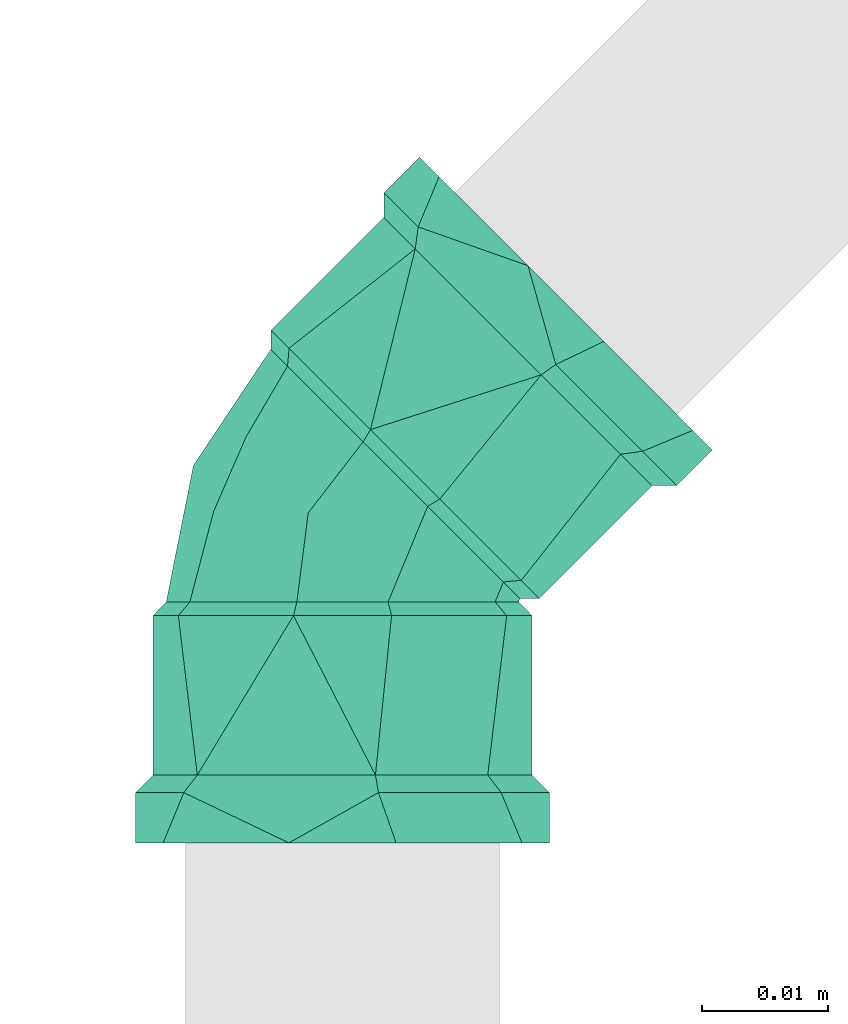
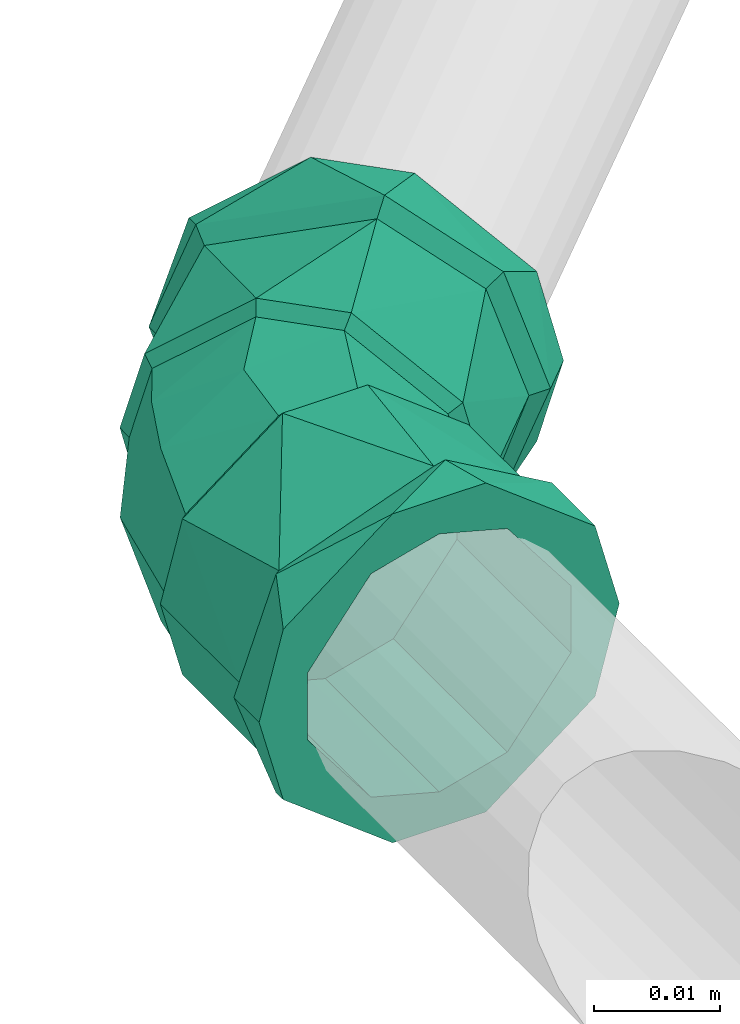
# One storey, part 376 of 589: 1 flow fitting.
"""IFC2X3 building model written with IfcOpenShell, lengths in millimetres."""

from ifc_helpers import new_model, entity, si_unit, converted_unit, derived_unit, direction, frame, origin, place, context, subcontext, project, spatial, faceted_brep, source, transform, mapped, material, type_object, type_shapes, element, save


model = new_model("IFC2X3")

# Units and contexts
model_context = context("Model", 3, precision=0.01, world=origin(), true_north=direction((6.123031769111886e-17, 1.0)))
body_context = subcontext(model_context, "Body", "Model", "MODEL_VIEW")
ifc_project = project(units=[si_unit("LENGTHUNIT", "METRE", prefix="MILLI"), si_unit("AREAUNIT", "SQUARE_METRE"), si_unit("VOLUMEUNIT", "CUBIC_METRE"), converted_unit("PLANEANGLEUNIT", "DEGREE", entity("IfcRatioMeasure", 0.017453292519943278), si_unit("PLANEANGLEUNIT", "RADIAN"), dimensions=[0, 0, 0, 0, 0, 0, 0]), si_unit("MASSUNIT", "GRAM", prefix="KILO"), derived_unit("MASSDENSITYUNIT", [(si_unit("MASSUNIT", "GRAM", prefix="KILO"), 1), (si_unit("LENGTHUNIT", "METRE"), -3)]), derived_unit("IONCONCENTRATIONUNIT", [(si_unit("MASSUNIT", "GRAM", prefix="KILO"), 1), (si_unit("LENGTHUNIT", "METRE"), -3)]), derived_unit("MOMENTOFINERTIAUNIT", [(si_unit("LENGTHUNIT", "METRE"), 4)]), si_unit("TIMEUNIT", "SECOND"), si_unit("FREQUENCYUNIT", "HERTZ"), si_unit("THERMODYNAMICTEMPERATUREUNIT", "DEGREE_CELSIUS"), derived_unit("THERMALTRANSMITTANCEUNIT", [(si_unit("MASSUNIT", "GRAM", prefix="KILO"), 1), (si_unit("THERMODYNAMICTEMPERATUREUNIT", "KELVIN"), -1), (si_unit("TIMEUNIT", "SECOND"), -3)]), derived_unit("THERMALCONDUCTANCEUNIT", [(si_unit("MASSUNIT", "GRAM", prefix="KILO"), 1), (si_unit("THERMODYNAMICTEMPERATUREUNIT", "KELVIN"), -1), (si_unit("TIMEUNIT", "SECOND"), -3), (si_unit("LENGTHUNIT", "METRE"), 1)]), derived_unit("VOLUMETRICFLOWRATEUNIT", [(si_unit("LENGTHUNIT", "METRE"), 3), (si_unit("TIMEUNIT", "SECOND"), -1)]), derived_unit("MASSFLOWRATEUNIT", [(si_unit("MASSUNIT", "GRAM", prefix="KILO"), 1), (si_unit("TIMEUNIT", "SECOND"), -1)]), derived_unit("ROTATIONALFREQUENCYUNIT", [(si_unit("TIMEUNIT", "SECOND"), -1)]), si_unit("ELECTRICCURRENTUNIT", "AMPERE"), si_unit("ELECTRICVOLTAGEUNIT", "VOLT"), si_unit("POWERUNIT", "WATT"), si_unit("FORCEUNIT", "NEWTON", prefix="KILO"), si_unit("ILLUMINANCEUNIT", "LUX"), si_unit("LUMINOUSFLUXUNIT", "LUMEN"), si_unit("LUMINOUSINTENSITYUNIT", "CANDELA"), derived_unit("USERDEFINED", [(si_unit("MASSUNIT", "GRAM", prefix="KILO"), -1), (si_unit("LENGTHUNIT", "METRE"), -2), (si_unit("TIMEUNIT", "SECOND"), 3), (si_unit("LUMINOUSFLUXUNIT", "LUMEN"), 1)]), derived_unit("USERDEFINED", [(si_unit("MASSUNIT", "GRAM", prefix="KILO"), 1), (si_unit("TIMEUNIT", "SECOND"), -3), (si_unit("LENGTHUNIT", "METRE"), 3), (si_unit("ELECTRICCURRENTUNIT", "AMPERE"), -2)]), derived_unit("SOUNDPOWERUNIT", [(si_unit("MASSUNIT", "GRAM", prefix="KILO"), 1), (si_unit("TIMEUNIT", "SECOND"), -3), (si_unit("LENGTHUNIT", "METRE"), 2)]), derived_unit("SOUNDPRESSUREUNIT", [(si_unit("MASSUNIT", "GRAM", prefix="KILO"), 1), (si_unit("LENGTHUNIT", "METRE"), -1), (si_unit("TIMEUNIT", "SECOND"), -2)]), derived_unit("LINEARVELOCITYUNIT", [(si_unit("LENGTHUNIT", "METRE"), 1), (si_unit("TIMEUNIT", "SECOND"), -1)]), si_unit("PRESSUREUNIT", "PASCAL"), derived_unit("USERDEFINED", [(si_unit("MASSUNIT", "GRAM", prefix="KILO"), 1), (si_unit("LENGTHUNIT", "METRE"), -2), (si_unit("TIMEUNIT", "SECOND"), -2)]), derived_unit("LINEARFORCEUNIT", [(si_unit("MASSUNIT", "GRAM", prefix="KILO"), 1), (si_unit("TIMEUNIT", "SECOND"), -2)]), derived_unit("PLANARFORCEUNIT", [(si_unit("MASSUNIT", "GRAM", prefix="KILO"), 1), (si_unit("LENGTHUNIT", "METRE"), -1), (si_unit("TIMEUNIT", "SECOND"), -2)]), derived_unit("SPECIFICHEATCAPACITYUNIT", [(si_unit("THERMODYNAMICTEMPERATUREUNIT", "KELVIN"), -1), (si_unit("LENGTHUNIT", "METRE"), 2), (si_unit("TIMEUNIT", "SECOND"), -2)]), derived_unit("HEATINGVALUEUNIT", [(si_unit("LENGTHUNIT", "METRE"), 2), (si_unit("TIMEUNIT", "SECOND"), -2)]), derived_unit("VAPORPERMEABILITYUNIT", [(si_unit("LENGTHUNIT", "METRE"), -1), (si_unit("TIMEUNIT", "SECOND"), 1)]), derived_unit("DYNAMICVISCOSITYUNIT", [(si_unit("MASSUNIT", "GRAM", prefix="KILO"), 1), (si_unit("TIMEUNIT", "SECOND"), -1), (si_unit("LENGTHUNIT", "METRE"), -1)]), derived_unit("THERMALEXPANSIONCOEFFICIENTUNIT", [(si_unit("THERMODYNAMICTEMPERATUREUNIT", "KELVIN"), -1)]), derived_unit("MODULUSOFELASTICITYUNIT", [(si_unit("MASSUNIT", "GRAM", prefix="KILO"), 1), (si_unit("LENGTHUNIT", "METRE"), -1), (si_unit("TIMEUNIT", "SECOND"), -2)]), derived_unit("ISOTHERMALMOISTURECAPACITYUNIT", [(si_unit("LENGTHUNIT", "METRE"), 3), (si_unit("MASSUNIT", "GRAM", prefix="KILO"), -1)]), derived_unit("MOISTUREDIFFUSIVITYUNIT", [(si_unit("TIMEUNIT", "SECOND"), -1), (si_unit("LENGTHUNIT", "METRE"), 2)])], contexts=[model_context])

# Site, building, storey
site_placement = place(None, origin())
site = spatial("IfcSite", under=ifc_project, at=site_placement, Name="Default", CompositionType="ELEMENT")
building_placement = place(site_placement, origin())
building = spatial("IfcBuilding", under=site, at=building_placement, CompositionType="ELEMENT")
storey_placement = place(building_placement, frame((0.0, 0.0, 100.0)))
storey = spatial("IfcBuildingStorey", under=building, at=storey_placement, Name="TÉRREO", CompositionType="ELEMENT", Elevation=100.0)

# Flow fitting
ifc_material = material(Name="PVC Marrom")
pipe_fitting_type = type_object("IfcPipeFittingType", Name="PVC Marrom Soldável_Joelho 45°_90°_Rodrigo MEP:Joelho", PredefinedType="NOTDEFINED", material=ifc_material)
shared_shape = source(origin(), body_context, "Body", "Brep", [
    faceted_brep([(7.758971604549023, 2.2319879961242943, 14.585479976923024), (14.24230357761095, -4.2513439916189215, 7.549999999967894), (15.67279219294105, -5.681832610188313, 0.0), (14.24230357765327, -4.251343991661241, -7.55000000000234), (7.758971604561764, 2.2319879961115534, -14.585479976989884), (2.231988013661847, 7.758971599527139, -14.585479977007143), (-4.2513439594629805, 14.242303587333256, -7.5500000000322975), (-5.681832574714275, 15.672792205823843, 0.0), (-4.251343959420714, 14.242303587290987, 7.5499999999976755), (2.23198801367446, 7.758971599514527, 14.58547997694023), (1.6481640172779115, 6.787160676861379, 13.561598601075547), (-4.380046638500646, 12.815371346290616, 7.019999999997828), (-5.710116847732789, 14.14544155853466, 0.0), (-4.380046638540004, 12.815371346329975, -7.02000000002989), (1.6481640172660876, 6.787160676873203, -13.561598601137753), (6.787160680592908, 1.648164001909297, -13.561598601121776), (12.81537133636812, -4.380046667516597, -7.020000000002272), (14.145441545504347, -5.710116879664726, 0.0), (12.815371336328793, -4.380046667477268, 7.019999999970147), (6.787160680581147, 1.6481640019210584, 13.561598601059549)], [[[0, 1, 2, 3, 4, 5, 6, 7, 8, 9]], [[10, 11, 12, 13, 14, 15, 16, 17, 18, 19]], [[3, 2, 17, 16]], [[4, 3, 16, 15]], [[15, 14, 5, 4]], [[6, 5, 14, 13]], [[7, 6, 13, 12]], [[8, 7, 12, 11]], [[9, 8, 11, 10]], [[10, 19, 0, 9]], [[1, 0, 19, 18]], [[2, 1, 18, 17]]]),
    faceted_brep([(-7.0646752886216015, 3.9081675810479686, 14.585479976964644), (-7.0646752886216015, 13.076983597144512, 7.549999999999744), (-7.0646752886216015, 15.100000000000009, 0.0), (-7.0646752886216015, 13.07698359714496, -7.549999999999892), (-7.0646752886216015, 3.908167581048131, -14.585479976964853), (-7.0646752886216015, -3.908167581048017, -14.585479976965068), (-7.0646752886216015, -13.07698359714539, -7.550000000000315), (-7.0646752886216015, -15.09999999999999, 0.0), (-7.0646752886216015, -13.076983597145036, 7.550000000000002), (-7.0646752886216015, -3.90816758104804, 14.585479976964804), (-5.964675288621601, 12.158996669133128, 7.0199999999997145), (-5.964675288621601, 3.6338193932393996, 13.561598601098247), (-5.964675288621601, -3.633819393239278, 13.561598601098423), (-5.964675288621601, -12.158996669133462, 7.0200000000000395), (-5.964675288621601, -14.040000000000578, 0.0), (-5.964675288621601, -12.15899666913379, -7.020000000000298), (-5.964675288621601, -3.6338193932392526, -13.561598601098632), (-5.964675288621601, 3.63381939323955, -13.561598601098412), (-5.964675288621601, 12.158996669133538, -7.019999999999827), (-5.964675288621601, 14.039999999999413, 0.0)], [[[0, 1, 2, 3, 4, 5, 6, 7, 8, 9]], [[10, 11, 12, 13, 14, 15, 16, 17, 18, 19]], [[3, 2, 19, 18]], [[4, 3, 18, 17]], [[17, 16, 5, 4]], [[6, 5, 16, 15]], [[7, 6, 15, 14]], [[8, 7, 14, 13]], [[9, 8, 13, 12]], [[12, 11, 0, 9]], [[1, 0, 11, 10]], [[2, 1, 10, 19]]]),
    faceted_brep([(-25.164675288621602, -4.270514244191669, -15.937776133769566), (-25.164675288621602, -6.250000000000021, -10.825317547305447), (-25.164675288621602, 0.0, -12.5), (-25.164675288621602, -14.28941916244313, -8.25000000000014), (-25.164675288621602, 4.270514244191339, -15.937776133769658), (-25.164675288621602, -12.074072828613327, -3.23523806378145), (-25.164675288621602, -16.49999999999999, 0.0), (-25.164675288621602, -12.074072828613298, 3.2352380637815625), (-25.164675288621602, -14.289419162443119, 8.249999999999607), (-25.164675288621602, -6.249999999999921, 10.825317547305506), (-25.164675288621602, -4.270514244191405, 15.937776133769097), (-25.164675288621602, 0.0, 12.5), (-25.164675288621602, 4.2705142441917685, 15.937776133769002), (-25.164675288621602, 6.2499999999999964, 10.825317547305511), (-25.164675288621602, 14.289419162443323, 8.249999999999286), (-25.164675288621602, 12.07407282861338, 3.2352380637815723), (-25.164675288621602, 16.50000000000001, 0.0), (-25.164675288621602, 12.074072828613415, -3.235238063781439), (-25.164675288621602, 14.28941916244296, -8.250000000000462), (-25.164675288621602, 6.250000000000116, -10.82531754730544), (-21.164675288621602, 16.500000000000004, 0.0), (-21.16467528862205, 12.639142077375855, 10.606700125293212), (-21.164675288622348, 2.863383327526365, 16.249647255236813), (-21.16467528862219, -12.641802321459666, 10.603529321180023), (-21.164675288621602, -16.49999999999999, 0.0), (-21.164675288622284, -4.889209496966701, 13.426588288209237), (-21.164675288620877, -12.641802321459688, -10.603529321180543), (-21.164675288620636, -2.8674593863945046, -16.24892847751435), (-21.164675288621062, 12.639142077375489, -10.606700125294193), (-21.16467528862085, 4.885841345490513, -13.427814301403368), (-19.7646752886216, -15.099999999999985, 0.0), (-19.764675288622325, -11.569164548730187, 9.703835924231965), (-19.76467528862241, -4.47436747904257, 12.287362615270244), (-19.7646752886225, 2.620429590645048, 14.870889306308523), (-19.76467528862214, 11.566730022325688, 9.706737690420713), (-19.764675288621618, 15.09999999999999, 0.0), (-19.764675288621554, 11.566730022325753, -9.706737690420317), (-19.76467528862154, 4.471285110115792, -12.28848460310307), (-19.76467528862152, -2.6241598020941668, -14.870231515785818), (-19.76467528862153, -11.56916454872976, -9.703835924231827), (-7.0646752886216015, 0.0, -12.5), (-7.0646752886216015, -6.250000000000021, -10.825317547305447), (-7.0646752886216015, -3.908167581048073, -14.585479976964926), (-7.0646752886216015, 3.9081675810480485, -14.585479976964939), (-7.0646752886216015, 6.250000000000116, -10.82531754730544), (-7.0646752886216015, -13.076983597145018, -7.549999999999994), (-7.0646752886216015, -12.074072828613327, -3.23523806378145), (-7.0646752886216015, -15.09999999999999, 0.0), (-7.0646752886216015, -12.074072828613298, 3.2352380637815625), (-7.0646752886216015, -13.076983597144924, 7.550000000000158), (-7.0646752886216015, -6.249999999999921, 10.825317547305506), (-7.0646752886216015, -3.908167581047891, 14.585479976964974), (-7.0646752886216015, 0.0, 12.5), (-7.0646752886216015, 3.9081675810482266, 14.58547997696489), (-7.0646752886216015, 6.2499999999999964, 10.825317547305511), (-7.0646752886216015, 13.076983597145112, 7.549999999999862), (-7.0646752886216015, 12.07407282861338, 3.2352380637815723), (-7.0646752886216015, 15.100000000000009, 0.0), (-7.0646752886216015, 12.074072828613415, -3.235238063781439), (-7.0646752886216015, 13.076983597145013, -7.550000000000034)], [[[0, 1, 2]], [[1, 0, 3]], [[2, 4, 0]], [[3, 5, 1]], [[3, 6, 5]], [[5, 6, 7]], [[8, 7, 6]], [[7, 8, 9]], [[10, 9, 8]], [[9, 10, 11]], [[11, 10, 12]], [[12, 13, 11]], [[14, 13, 12]], [[13, 14, 15]], [[16, 15, 14]], [[16, 17, 15]], [[18, 17, 16]], [[19, 17, 18]], [[19, 18, 4]], [[4, 2, 19]], [[16, 14, 20]], [[14, 21, 20]], [[21, 14, 12]], [[21, 12, 22]], [[23, 10, 8]], [[24, 8, 6]], [[10, 23, 25, 22]], [[23, 8, 24]], [[10, 22, 12]], [[6, 3, 24]], [[3, 26, 24]], [[26, 3, 0]], [[26, 0, 27]], [[28, 4, 18]], [[20, 18, 16]], [[4, 28, 29, 27]], [[28, 18, 20]], [[4, 27, 0]], [[30, 31, 23, 24]], [[31, 32, 33, 22, 25, 23]], [[34, 35, 20, 21]], [[34, 21, 22, 33]], [[35, 36, 28, 20]], [[36, 37, 38, 27, 29, 28]], [[39, 30, 24, 26]], [[39, 26, 27, 38]], [[40, 41, 42]], [[42, 43, 40]], [[44, 40, 43]], [[45, 42, 41]], [[41, 46, 45]], [[46, 47, 45]], [[48, 47, 46]], [[47, 48, 49]], [[50, 49, 48]], [[49, 50, 51]], [[52, 51, 50]], [[53, 51, 52]], [[52, 54, 53]], [[53, 54, 55]], [[56, 55, 54]], [[55, 56, 57]], [[56, 58, 57]], [[59, 58, 44]], [[57, 58, 59]], [[43, 59, 44]], [[35, 34, 55]], [[35, 55, 57]], [[55, 34, 53]], [[34, 33, 53]], [[51, 33, 32, 31]], [[49, 31, 30]], [[31, 49, 51]], [[49, 30, 47]], [[33, 51, 53]], [[30, 39, 45]], [[30, 45, 47]], [[45, 39, 42]], [[39, 38, 42]], [[43, 38, 37, 36]], [[59, 36, 35]], [[36, 59, 43]], [[59, 35, 57]], [[38, 43, 42]], [[9, 11, 52, 50]], [[7, 9, 50, 48]], [[48, 46, 5, 7]], [[1, 5, 46, 41]], [[2, 1, 41, 40]], [[19, 2, 40, 44]], [[17, 19, 44, 58]], [[58, 56, 15, 17]], [[13, 15, 56, 54]], [[11, 13, 54, 52]]]),
    faceted_brep([(-5.964675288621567, -3.6338193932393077, -13.561598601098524), (-5.9646752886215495, -12.158996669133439, -7.020000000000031), (-5.964675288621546, -14.03999999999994, 0.0), (-5.9646752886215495, -12.158996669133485, 7.019999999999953), (-5.964675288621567, -3.633819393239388, 13.561598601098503), (-5.964675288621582, 3.633819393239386, 13.561598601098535), (-5.9646752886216, 12.158996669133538, 7.0200000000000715), (-5.964675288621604, 14.040000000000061, 0.0), (-5.9646752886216, 12.158996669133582, -7.019999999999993), (-5.964675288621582, 3.6338193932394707, -13.561598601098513), (-5.710116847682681, 14.14544155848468, 0.0), (-4.380046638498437, 12.81537134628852, 7.0200000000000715), (1.6481640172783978, 6.7871606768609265, 13.561598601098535), (6.7871606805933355, 1.648164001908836, 13.561598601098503), (12.815371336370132, -4.380046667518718, 7.019999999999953), (14.145441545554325, -5.710116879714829, 0.0), (12.8153713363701, -4.380046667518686, -7.020000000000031), (6.787160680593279, 1.6481640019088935, -13.561598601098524), (1.648164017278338, 6.787160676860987, -13.561598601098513), (-4.38004663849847, 12.815371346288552, -7.019999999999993), (1.1303531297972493, -2.7289158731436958, 13.41567388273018), (6.369032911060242, -8.143777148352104, 8.336459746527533), (10.781820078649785, -7.95761688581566, 0.0), (4.918841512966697, -11.8751339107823, 0.0), (-1.9970133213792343, -13.250782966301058, 0.0), (0.36406105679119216, -10.505608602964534, 8.336459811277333), (-5.826909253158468, 14.067403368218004, 0.0), (6.369032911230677, -8.143777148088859, -8.336459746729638), (0.36406105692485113, -10.505608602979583, -8.336459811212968), (1.1303531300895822, -2.7289158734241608, -13.41567388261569)], [[[0, 1, 2, 3, 4, 5, 6, 7, 8, 9]], [[10, 11, 12, 13, 14, 15, 16, 17, 18, 19]], [[4, 20, 5]], [[13, 20, 21]], [[22, 15, 14]], [[22, 21, 23]], [[3, 24, 25]], [[26, 6, 11]], [[13, 21, 14]], [[26, 7, 6]], [[11, 6, 5, 12]], [[4, 3, 25]], [[23, 25, 24]], [[21, 22, 14]], [[21, 20, 25]], [[4, 25, 20]], [[26, 11, 10]], [[21, 25, 23]], [[20, 12, 5]], [[3, 2, 24]], [[13, 12, 20]], [[24, 2, 1]], [[27, 23, 28]], [[19, 18, 9, 8]], [[29, 9, 18]], [[28, 24, 1]], [[23, 24, 28]], [[0, 9, 29]], [[27, 28, 29]], [[17, 27, 29]], [[8, 7, 26]], [[26, 10, 19]], [[16, 15, 22]], [[0, 28, 1]], [[17, 16, 27]], [[22, 23, 27]], [[22, 27, 16]], [[0, 29, 28]], [[18, 17, 29]], [[19, 8, 26]]]),
    faceted_brep([(4.995479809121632, 4.99547979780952, -12.5), (0.576062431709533, 9.41489718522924, -10.825317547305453), (2.2319880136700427, 7.758971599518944, -14.585479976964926), (7.758971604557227, 2.2319879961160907, -14.585479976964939), (9.414897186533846, 0.5760624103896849, -10.82531754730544), (-4.251343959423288, 14.242303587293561, -7.549999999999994), (-3.542178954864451, 13.533138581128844, -3.23523806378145), (-5.681832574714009, 15.672792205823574, 0.0), (-3.5421789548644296, 13.533138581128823, 3.2352380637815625), (-4.251343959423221, 14.242303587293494, 7.550000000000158), (0.5760624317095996, 9.414897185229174, 10.825317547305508), (2.2319880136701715, 7.758971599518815, 14.585479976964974), (4.995479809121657, 4.9954797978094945, 12.5), (7.758971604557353, 2.231987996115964, 14.58547997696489), (9.414897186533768, 0.5760624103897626, 10.825317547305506), (14.24230357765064, -4.251343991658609, 7.549999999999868), (13.533138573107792, -3.54217898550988, 3.2352380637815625), (15.672792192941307, -5.681832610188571, 0.0), (13.533138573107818, -3.5421789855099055, -3.235238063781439), (14.242303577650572, -4.251343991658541, -7.550000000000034), (24.65304832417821, 3.298423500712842, 0.0), (22.154649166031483, 5.796822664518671, 9.706737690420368), (17.137411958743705, 10.814059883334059, 12.288484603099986), (12.120174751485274, 15.831297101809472, 14.870231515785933), (5.795101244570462, 22.156370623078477, 9.703835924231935), (3.2984235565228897, 24.653048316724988, 0.0), (5.795101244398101, 22.156370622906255, -9.703835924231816), (10.8118803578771, 17.139591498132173, -12.287362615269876), (15.828659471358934, 12.122812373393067, -14.870889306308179), (22.154649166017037, 5.796822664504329, -9.706737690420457), (6.028462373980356, 23.902908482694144, 10.606700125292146), (3.2984235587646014, 26.632947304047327, 0.0), (12.940967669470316, 16.990403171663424, 16.249647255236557), (23.904789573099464, 6.026581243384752, 10.603529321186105), (18.42287862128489, 11.508492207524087, 13.426588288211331), (26.632947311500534, 3.2984234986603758, 0.0), (23.904789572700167, 6.026581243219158, -10.603529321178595), (16.9932854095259, 12.938085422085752, -16.248928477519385), (6.028462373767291, 23.902908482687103, -10.60670012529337), (11.510873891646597, 18.420496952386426, -13.427814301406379), (14.774402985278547, 20.813822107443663, -15.937776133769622), (13.374695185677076, 22.213529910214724, -10.825317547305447), (17.79411256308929, 17.794112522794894, -12.5), (7.689967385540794, 27.898257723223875, -8.249999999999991), (20.81382214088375, 14.774402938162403, -15.937776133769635), (9.256453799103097, 26.33177130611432, -3.23523806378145), (6.1268506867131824, 29.46137442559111, 0.0), (9.256453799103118, 26.331771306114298, 3.2352380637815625), (7.689967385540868, 27.8982577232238, 8.250000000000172), (13.374695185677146, 22.213529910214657, 10.825317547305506), (14.774402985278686, 20.813822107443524, 15.937776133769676), (17.794112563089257, 17.794112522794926, 12.5), (20.81382214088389, 14.774402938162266, 15.937776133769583), (22.213529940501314, 13.374695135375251, 10.825317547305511), (27.89825774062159, 7.689967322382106, 8.24999999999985), (26.331771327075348, 9.256453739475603, 3.2352380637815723), (29.461374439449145, 6.126850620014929, 0.0), (26.331771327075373, 9.256453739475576, -3.235238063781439), (27.898257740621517, 7.68996732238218, -8.250000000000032), (22.213529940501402, 13.374695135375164, -10.82531754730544)], [[[0, 1, 2]], [[2, 3, 0]], [[4, 0, 3]], [[5, 2, 1]], [[1, 6, 5]], [[6, 7, 5]], [[8, 7, 6]], [[7, 8, 9]], [[10, 9, 8]], [[9, 10, 11]], [[12, 11, 10]], [[13, 11, 12]], [[12, 14, 13]], [[13, 14, 15]], [[16, 15, 14]], [[15, 16, 17]], [[16, 18, 17]], [[19, 18, 4]], [[17, 18, 19]], [[3, 19, 4]], [[20, 21, 15]], [[20, 15, 17]], [[15, 21, 13]], [[13, 21, 22, 23]], [[11, 23, 24]], [[9, 24, 25]], [[24, 9, 11]], [[9, 25, 7]], [[23, 11, 13]], [[25, 26, 5]], [[25, 5, 7]], [[5, 26, 2]], [[2, 26, 27, 28]], [[3, 28, 29]], [[19, 29, 20]], [[29, 19, 3]], [[19, 20, 17]], [[28, 3, 2]], [[24, 23, 30]], [[25, 24, 31]], [[31, 24, 30]], [[23, 32, 30]], [[21, 20, 33]], [[21, 33, 34]], [[22, 32, 23]], [[35, 33, 20]], [[32, 22, 34]], [[22, 21, 34]], [[20, 29, 36]], [[36, 35, 20]], [[37, 36, 29]], [[38, 39, 27]], [[29, 28, 37]], [[26, 25, 31]], [[38, 27, 26]], [[38, 26, 31]], [[28, 39, 37]], [[39, 28, 27]], [[40, 41, 42]], [[41, 40, 43]], [[42, 44, 40]], [[43, 45, 41]], [[43, 46, 45]], [[45, 46, 47]], [[48, 47, 46]], [[47, 48, 49]], [[50, 49, 48]], [[49, 50, 51]], [[51, 50, 52]], [[52, 53, 51]], [[54, 53, 52]], [[53, 54, 55]], [[56, 55, 54]], [[56, 57, 55]], [[58, 57, 56]], [[59, 57, 58]], [[59, 58, 44]], [[44, 42, 59]], [[56, 54, 35]], [[54, 33, 35]], [[33, 54, 52]], [[52, 32, 34, 33]], [[30, 50, 48]], [[31, 48, 46]], [[50, 30, 32]], [[30, 48, 31]], [[50, 32, 52]], [[46, 43, 31]], [[43, 38, 31]], [[38, 43, 40]], [[40, 37, 39, 38]], [[36, 44, 58]], [[35, 58, 56]], [[44, 36, 37]], [[36, 58, 35]], [[44, 37, 40]], [[49, 51, 12, 10]], [[47, 49, 10, 8]], [[8, 6, 45, 47]], [[41, 45, 6, 1]], [[42, 41, 1, 0]], [[59, 42, 0, 4]], [[57, 59, 4, 18]], [[18, 16, 55, 57]], [[53, 55, 16, 14]], [[51, 53, 14, 12]]]),
])
type_shapes(pipe_fitting_type, [shared_shape])
flow_fitting_placement = place(storey_placement, frame((-267.98205759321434, -6378.261221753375, -37.35699946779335), z_axis=(0.0, 0.0, 1.0), x_axis=(-0.7071067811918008, -0.7071067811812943, 0.0)))
element("IfcFlowFitting", 1, at=flow_fitting_placement, inside=storey, type_object=pipe_fitting_type, material=ifc_material, Name="PVC Marrom Soldável_Joelho 45°_90°_Rodrigo MEP:Joelho", ObjectType="PVC Marrom Soldável_Joelho 45°_90°_Rodrigo MEP:Joelho", context=body_context, shape_type="MappedRepresentation", body=[
    mapped(shared_shape, transform((0.0, 0.0, 0.0), scale=1.0)),
])

save(model, "model.ifc")
